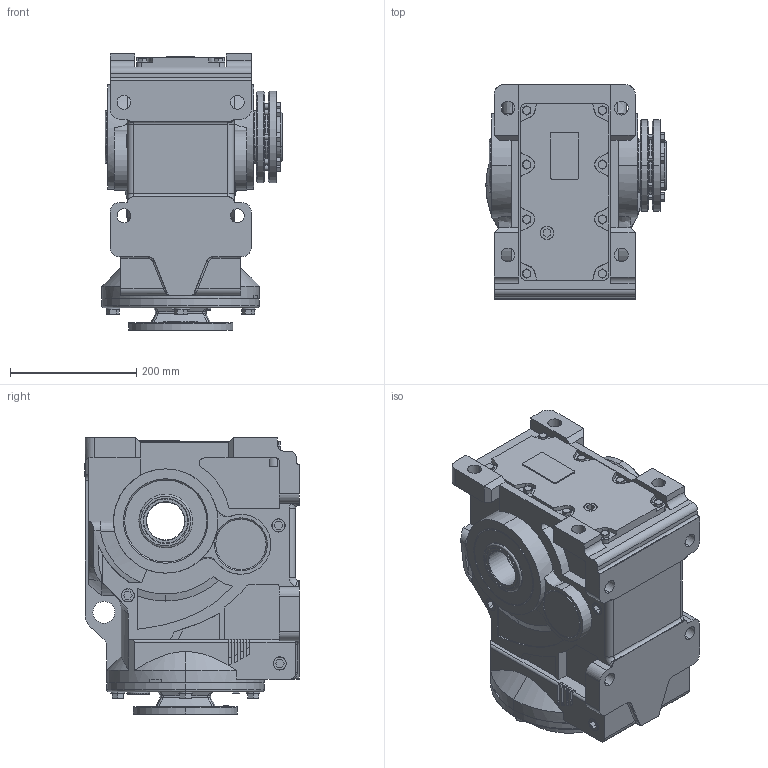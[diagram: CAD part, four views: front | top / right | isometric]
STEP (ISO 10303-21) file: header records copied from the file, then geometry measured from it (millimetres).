
FILE_DESCRIPTION (( 'STEP AP203' ), '1' );
FILE_NAME ('KHN87-143TC-A-POWER LOCK.STEP', '2020-12-04T06:18:45', ( 'Microsoft' ), ( 'Microsoft' ), 'SwSTEP 2.0', 'SolidWorks 2012', '' );
FILE_SCHEMA (( 'CONFIG_CONTROL_DESIGN' ));
Length unit declared in the file: millimetre
Products named in the file (1): KHN87-143TC-A-POWER LOCK
Bounding box: 286 x 340.5 x 438.5 mm (x, y, z)
Volume: 22880971.2 mm3; surface area: 1000586 mm2
Topology: 2 solids, 26 shells, 1572 faces, 3957 edges, 2531 vertices
Faces by surface type: plane 719, cylinder 421, cone 277, bspline 113, torus 42
Entity records: 56609 total; most frequent: CARTESIAN_POINT 19192, ORIENTED_EDGE 7854, DIRECTION 7567, EDGE_CURVE 3927, AXIS2_PLACEMENT_3D 2730, VERTEX_POINT 2531, LINE 2107, VECTOR 2107
